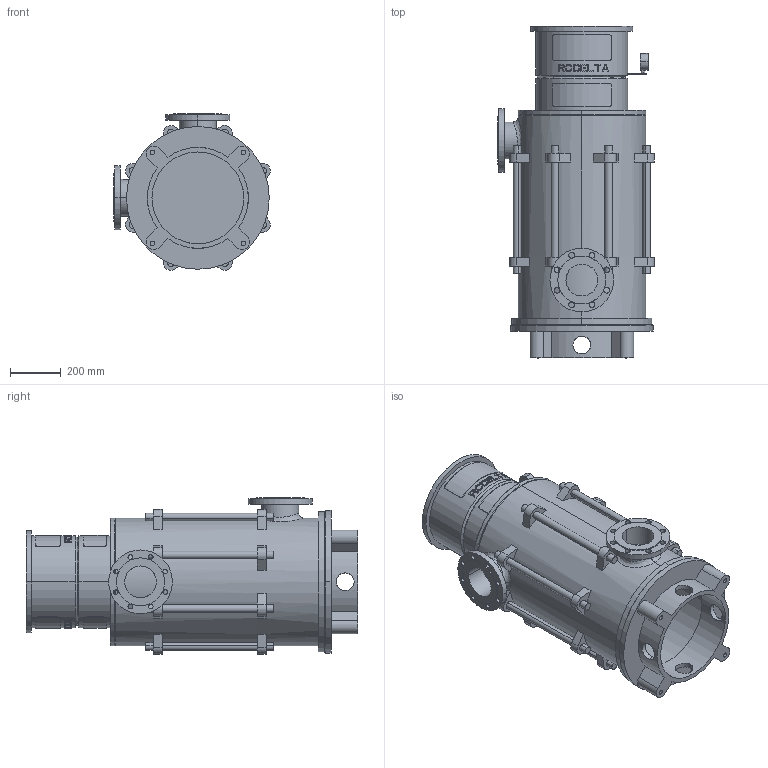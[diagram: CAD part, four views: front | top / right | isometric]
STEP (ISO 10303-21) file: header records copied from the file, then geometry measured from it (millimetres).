
FILE_DESCRIPTION((''),'2;1');
FILE_NAME('LS5_4TR_0GR_TOT_30KW','2023-08-08T',('Lyritlocal'),(''),'PRO/ENGINEER BY PARAMETRIC TECHNOLOGY CORPORATION, 2016360','PRO/ENGINEER BY PARAMETRIC TECHNOLOGY CORPORATION, 2016360','');
FILE_SCHEMA(('CONFIG_CONTROL_DESIGN'));
Length unit declared in the file: millimetre
Products named in the file (1): LS5_4TR_0GR_TOT_30KW
Bounding box: 614.04 x 1302 x 614.04 mm (x, y, z)
Volume: 37520295.7 mm3; surface area: 5384781.6 mm2
Topology: 3 solids, 7 shells, 672 faces, 1749 edges, 1158 vertices
Faces by surface type: plane 414, cylinder 242, cone 12, bspline 4
Entity records: 21987 total; most frequent: CARTESIAN_POINT 5535, ORIENTED_EDGE 3482, DIRECTION 3271, EDGE_CURVE 1749, AXIS2_PLACEMENT_3D 1241, VERTEX_POINT 1158, EDGE_LOOP 807, VECTOR 789
